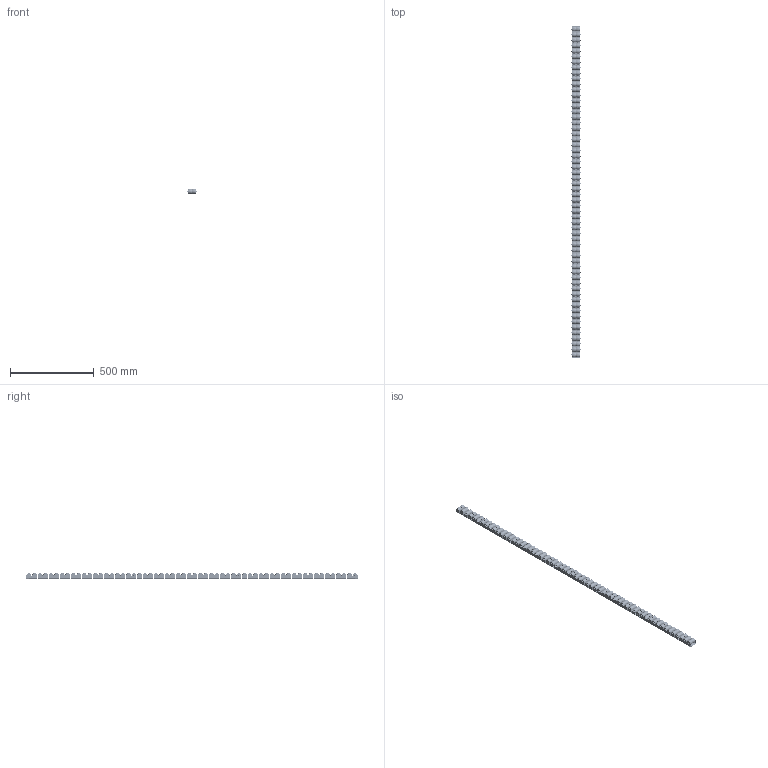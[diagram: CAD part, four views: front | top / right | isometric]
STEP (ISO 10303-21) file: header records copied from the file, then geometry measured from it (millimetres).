
FILE_DESCRIPTION(/* description */ ('Unknown'),/* implementation_level */ '2;1');
FILE_NAME(/* name */ 'Listwa T200G BB ',/* time_stamp */ '2024-05-27T09:33:46+02:00',/* author */ ('Unknown'),/* organization */ ('Unknown'),/* preprocessor_version */ 'ST-DEVELOPER v18.104',/* originating_system */ 'Solid Edge',/* authorisation */ 'Unknown');
FILE_SCHEMA (('AUTOMOTIVE_DESIGN {1 0 10303 214 3 1 1}'));
Length unit declared in the file: millimetre
Products named in the file (6): 1769-00-00-niegieta; 1769-00-10-niegiêta 2000 [mm]; Rolka T 100G; 790-02-01; 790-02-02; Nit.
Assembly tree (183 placements, depth 3):
  1769-00-00-niegieta
    1769-00-10-niegiêta 2000 [mm]
    Rolka T 100G  x120
      790-02-01
      790-02-02
    Nit.  x60
Bounding box: 55 x 1983 x 34.88 mm (x, y, z)
Volume: 1869157.4 mm3; surface area: 1441447.9 mm2
Topology: 301 solids, 301 shells, 11638 faces, 31908 edges, 21232 vertices
Faces by surface type: plane 9300, cylinder 1858, cone 240, torus 240
Full cylindrical faces by diameter (mm): 2 x60, 5 x60, 5.2 x120, 5.3 x120, 6 x120, 11.5 x240, 16 x240, 20 x240
Entity records: 53687 total; most frequent: CARTESIAN_POINT 10554, DIRECTION 8998, ORIENTED_EDGE 8806, EDGE_CURVE 4403, AXIS2_PLACEMENT_3D 3355, VERTEX_POINT 3023, LINE 2288, VECTOR 2288
